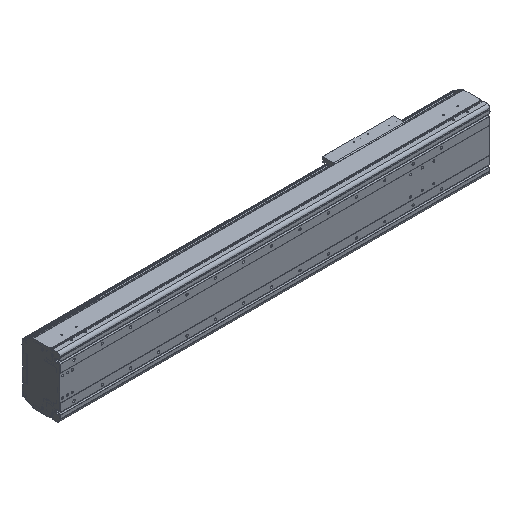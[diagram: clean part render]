
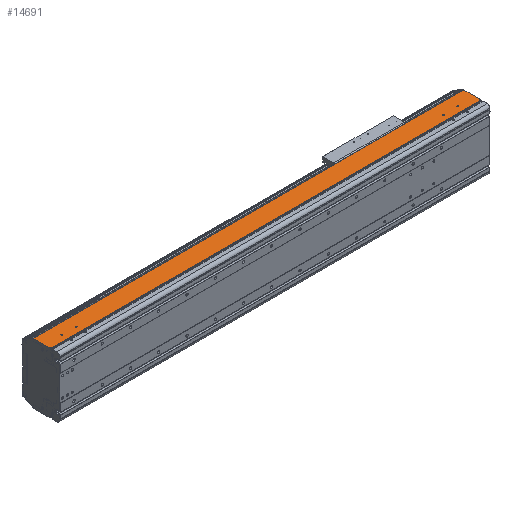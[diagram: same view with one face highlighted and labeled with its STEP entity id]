
A CAD part, isometric view. The second image highlights one B-rep face of the part: STEP entity #14691.
In plain terms, the highlighted planar face has unit normal (0, 0, 1).
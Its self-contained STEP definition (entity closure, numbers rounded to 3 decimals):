
#1814=DIRECTION('',(0.,-1.,0.));
#1815=VECTOR('',#1814,2.55);
#1816=CARTESIAN_POINT('',(0.,34.65,107.));
#1817=LINE('',#1816,#1815);
#2297=DIRECTION('',(1.,0.,0.));
#2298=VECTOR('',#2297,2.);
#2299=CARTESIAN_POINT('',(-1521.,34.65,107.));
#2300=LINE('',#2299,#2298);
#2301=CARTESIAN_POINT('',(-59.5,54.,107.));
#2302=DIRECTION('',(0.,0.,-1.));
#2303=DIRECTION('',(1.,0.,0.));
#2304=AXIS2_PLACEMENT_3D('',#2301,#2302,#2303);
#2306=CARTESIAN_POINT('',(-59.5,54.,107.));
#2307=DIRECTION('',(0.,0.,-1.));
#2308=DIRECTION('',(-1.,0.,0.));
#2309=AXIS2_PLACEMENT_3D('',#2306,#2307,#2308);
#2311=CARTESIAN_POINT('',(-109.5,54.,107.));
#2312=DIRECTION('',(0.,0.,-1.));
#2313=DIRECTION('',(1.,0.,0.));
#2314=AXIS2_PLACEMENT_3D('',#2311,#2312,#2313);
#2316=CARTESIAN_POINT('',(-109.5,54.,107.));
#2317=DIRECTION('',(0.,0.,-1.));
#2318=DIRECTION('',(-1.,0.,0.));
#2319=AXIS2_PLACEMENT_3D('',#2316,#2317,#2318);
#2321=CARTESIAN_POINT('',(-1459.5,54.,107.));
#2322=DIRECTION('',(0.,0.,-1.));
#2323=DIRECTION('',(1.,0.,0.));
#2324=AXIS2_PLACEMENT_3D('',#2321,#2322,#2323);
#2326=CARTESIAN_POINT('',(-1459.5,54.,107.));
#2327=DIRECTION('',(0.,0.,-1.));
#2328=DIRECTION('',(-1.,0.,0.));
#2329=AXIS2_PLACEMENT_3D('',#2326,#2327,#2328);
#2331=CARTESIAN_POINT('',(-1409.5,54.,107.));
#2332=DIRECTION('',(0.,0.,-1.));
#2333=DIRECTION('',(1.,0.,0.));
#2334=AXIS2_PLACEMENT_3D('',#2331,#2332,#2333);
#2336=CARTESIAN_POINT('',(-1409.5,54.,107.));
#2337=DIRECTION('',(0.,0.,-1.));
#2338=DIRECTION('',(-1.,0.,0.));
#2339=AXIS2_PLACEMENT_3D('',#2336,#2337,#2338);
#2341=DIRECTION('',(0.,-1.,0.));
#2342=VECTOR('',#2341,2.55);
#2343=CARTESIAN_POINT('',(-1519.,34.65,107.));
#2344=LINE('',#2343,#2342);
#2345=DIRECTION('',(0.,-1.,0.));
#2346=VECTOR('',#2345,58.85);
#2347=CARTESIAN_POINT('',(-1521.,93.5,107.));
#2348=LINE('',#2347,#2346);
#2349=DIRECTION('',(0.,1.,0.));
#2350=VECTOR('',#2349,58.85);
#2351=CARTESIAN_POINT('',(2.,34.65,107.));
#2352=LINE('',#2351,#2350);
#2353=DIRECTION('',(1.,0.,0.));
#2354=VECTOR('',#2353,1519.);
#2355=CARTESIAN_POINT('',(-1519.,32.1,107.));
#2356=LINE('',#2355,#2354);
#2461=DIRECTION('',(-1.,0.,0.));
#2462=VECTOR('',#2461,1523.);
#2463=CARTESIAN_POINT('',(2.,93.5,107.));
#2464=LINE('',#2463,#2462);
#7951=DIRECTION('',(1.,0.,0.));
#7952=VECTOR('',#7951,2.);
#7953=CARTESIAN_POINT('',(0.,34.65,107.));
#7954=LINE('',#7953,#7952);
#9305=CARTESIAN_POINT('',(-1521.,34.65,107.));
#9306=VERTEX_POINT('',#9305);
#9307=CARTESIAN_POINT('',(-1521.,93.5,107.));
#9308=VERTEX_POINT('',#9307);
#9537=CARTESIAN_POINT('',(-1519.,32.1,107.));
#9538=VERTEX_POINT('',#9537);
#9845=CARTESIAN_POINT('',(0.,32.1,107.));
#9846=VERTEX_POINT('',#9845);
#9847=CARTESIAN_POINT('',(-57.,54.,107.));
#9848=CARTESIAN_POINT('',(-62.,54.,107.));
#9849=VERTEX_POINT('',#9847);
#9850=VERTEX_POINT('',#9848);
#9851=CARTESIAN_POINT('',(-107.,54.,107.));
#9852=CARTESIAN_POINT('',(-112.,54.,107.));
#9853=VERTEX_POINT('',#9851);
#9854=VERTEX_POINT('',#9852);
#9855=CARTESIAN_POINT('',(-1457.,54.,107.));
#9856=CARTESIAN_POINT('',(-1462.,54.,107.));
#9857=VERTEX_POINT('',#9855);
#9858=VERTEX_POINT('',#9856);
#9859=CARTESIAN_POINT('',(-1407.,54.,107.));
#9860=CARTESIAN_POINT('',(-1412.,54.,107.));
#9861=VERTEX_POINT('',#9859);
#9862=VERTEX_POINT('',#9860);
#10530=CARTESIAN_POINT('',(2.,34.65,107.));
#10531=VERTEX_POINT('',#10530);
#10532=CARTESIAN_POINT('',(2.,93.5,107.));
#10533=VERTEX_POINT('',#10532);
#10984=CARTESIAN_POINT('',(0.,34.65,107.));
#10985=VERTEX_POINT('',#10984);
#11064=CARTESIAN_POINT('',(-1519.,34.65,107.));
#11065=VERTEX_POINT('',#11064);
#14649=CARTESIAN_POINT('',(-759.5,62.8,107.));
#14650=DIRECTION('',(0.,0.,1.));
#14651=DIRECTION('',(0.,-1.,0.));
#14652=AXIS2_PLACEMENT_3D('',#14649,#14650,#14651);
#14653=PLANE('',#14652);
#14654=ORIENTED_EDGE('',*,*,#12135,.F.);
#14655=ORIENTED_EDGE('',*,*,#14644,.F.);
#14656=ORIENTED_EDGE('',*,*,#12764,.F.);
#14658=ORIENTED_EDGE('',*,*,#14657,.F.);
#14659=ORIENTED_EDGE('',*,*,#11872,.F.);
#14661=ORIENTED_EDGE('',*,*,#14660,.F.);
#14662=ORIENTED_EDGE('',*,*,#14252,.T.);
#14664=ORIENTED_EDGE('',*,*,#14663,.F.);
#14665=EDGE_LOOP('',(#14654,#14655,#14656,#14658,#14659,#14661,#14662,#14664));
#14666=FACE_OUTER_BOUND('',#14665,.F.);
#14668=ORIENTED_EDGE('',*,*,#14667,.F.);
#14670=ORIENTED_EDGE('',*,*,#14669,.F.);
#14671=EDGE_LOOP('',(#14668,#14670));
#14672=FACE_BOUND('',#14671,.F.);
#14674=ORIENTED_EDGE('',*,*,#14673,.F.);
#14676=ORIENTED_EDGE('',*,*,#14675,.F.);
#14677=EDGE_LOOP('',(#14674,#14676));
#14678=FACE_BOUND('',#14677,.F.);
#14680=ORIENTED_EDGE('',*,*,#14679,.F.);
#14682=ORIENTED_EDGE('',*,*,#14681,.F.);
#14683=EDGE_LOOP('',(#14680,#14682));
#14684=FACE_BOUND('',#14683,.F.);
#14686=ORIENTED_EDGE('',*,*,#14685,.F.);
#14688=ORIENTED_EDGE('',*,*,#14687,.F.);
#14689=EDGE_LOOP('',(#14686,#14688));
#14690=FACE_BOUND('',#14689,.F.);
#14691=ADVANCED_FACE('',(#14666,#14672,#14678,#14684,#14690),#14653,.T.);
#2305=CIRCLE('',#2304,2.5);
#2310=CIRCLE('',#2309,2.5);
#2315=CIRCLE('',#2314,2.5);
#2320=CIRCLE('',#2319,2.5);
#2325=CIRCLE('',#2324,2.5);
#2330=CIRCLE('',#2329,2.5);
#2335=CIRCLE('',#2334,2.5);
#2340=CIRCLE('',#2339,2.5);
#11872=EDGE_CURVE('',#10531,#10533,#2352,.T.);
#12135=EDGE_CURVE('',#11065,#9538,#2344,.T.);
#12764=EDGE_CURVE('',#9308,#9306,#2348,.T.);
#14252=EDGE_CURVE('',#10985,#9846,#1817,.T.);
#14644=EDGE_CURVE('',#9306,#11065,#2300,.T.);
#14657=EDGE_CURVE('',#10533,#9308,#2464,.T.);
#14660=EDGE_CURVE('',#10985,#10531,#7954,.T.);
#14663=EDGE_CURVE('',#9538,#9846,#2356,.T.);
#14667=EDGE_CURVE('',#9853,#9854,#2315,.T.);
#14669=EDGE_CURVE('',#9854,#9853,#2320,.T.);
#14673=EDGE_CURVE('',#9857,#9858,#2325,.T.);
#14675=EDGE_CURVE('',#9858,#9857,#2330,.T.);
#14679=EDGE_CURVE('',#9861,#9862,#2335,.T.);
#14681=EDGE_CURVE('',#9862,#9861,#2340,.T.);
#14685=EDGE_CURVE('',#9849,#9850,#2305,.T.);
#14687=EDGE_CURVE('',#9850,#9849,#2310,.T.);
